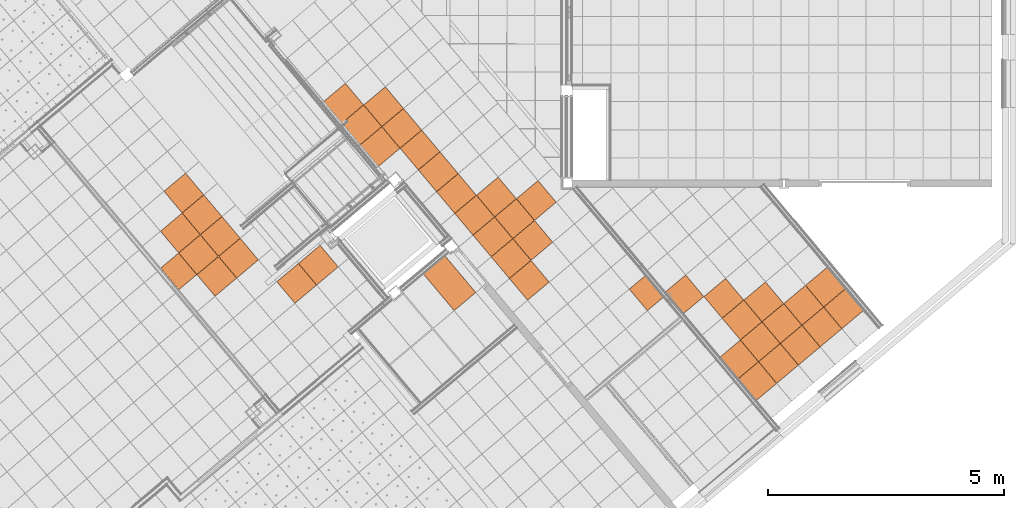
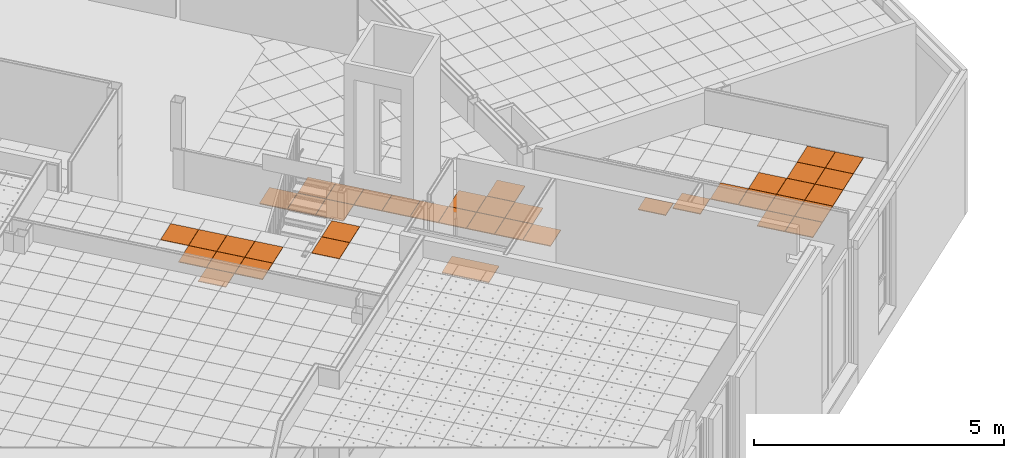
# One storey, part 195 of 338: 42 proxies, 4 elements without a shape of their own.
"""IFC2X3 building model written with IfcOpenShell, lengths in millimetres."""

from ifc_helpers import new_model, entity, si_unit, converted_unit, derived_unit, money_unit, direction, frame, origin_with_axes, place, context, subcontext, project, spatial, faceted_brep, source, transform, mapped, material, type_object, type_shapes, element, aggregate, save


model = new_model("IFC2X3")

# Units and contexts
model_context = context("Model", 3, precision=0.01, world=origin_with_axes(), true_north=direction((0.0, 1.0)))
plan_context = context("Plan", 3, precision=0.01, world=origin_with_axes(), true_north=direction((0.0, 1.0)))
body_context = subcontext(model_context, "Body", "Model", "MODEL_VIEW")
ifc_project = project(units=[si_unit("LENGTHUNIT", "METRE", prefix="MILLI"), si_unit("AREAUNIT", "SQUARE_METRE"), si_unit("VOLUMEUNIT", "CUBIC_METRE"), converted_unit("PLANEANGLEUNIT", "DEGREE", entity("IfcPlaneAngleMeasure", 0.0174532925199), si_unit("PLANEANGLEUNIT", "RADIAN"), dimensions=[0, 0, 0, 0, 0, 0, 0]), money_unit("EUR"), converted_unit("TIMEUNIT", "Year", entity("IfcTimeMeasure", 31556926.0), si_unit("TIMEUNIT", "SECOND"), dimensions=[0, 0, 1, 0, 0, 0, 0]), si_unit("MASSUNIT", "GRAM", prefix="KILO"), si_unit("THERMODYNAMICTEMPERATUREUNIT", "DEGREE_CELSIUS"), si_unit("LUMINOUSINTENSITYUNIT", "LUMEN"), si_unit("ENERGYUNIT", "JOULE", prefix="MEGA"), derived_unit("THERMALCONDUCTANCEUNIT", [(si_unit("POWERUNIT", "WATT"), 1), (si_unit("LENGTHUNIT", "METRE"), -1), (si_unit("THERMODYNAMICTEMPERATUREUNIT", "KELVIN"), -1)]), derived_unit("SPECIFICHEATCAPACITYUNIT", [(si_unit("ENERGYUNIT", "JOULE"), 1), (si_unit("MASSUNIT", "GRAM", prefix="KILO"), -1), (si_unit("THERMODYNAMICTEMPERATUREUNIT", "KELVIN"), -1)]), derived_unit("MASSDENSITYUNIT", [(si_unit("MASSUNIT", "GRAM", prefix="KILO"), 1), (si_unit("VOLUMEUNIT", "CUBIC_METRE"), -1)])], contexts=[model_context, plan_context])

# Site, building, storey
site_placement = place(None, origin_with_axes())
site = spatial("IfcSite", under=ifc_project, at=site_placement, Name="Fortuinstraat Woensdrecht", CompositionType="ELEMENT")
building_placement = place(site_placement, origin_with_axes())
building = spatial("IfcBuilding", under=site, at=building_placement, Name="IKC Fortuna", CompositionType="ELEMENT")
storey_placement = place(building_placement, origin_with_axes())
storey = spatial("IfcBuildingStorey", under=building, at=storey_placement, Name="00 begane grond", CompositionType="ELEMENT", Elevation=0.0)

# Covering, proxies
covering_type = type_object("IfcCoveringType", Name="Curtain Wall Type", PredefinedType="CEILING")
covering_1_placement = place(storey_placement, frame((19821.8074512, -1204.73183435, 4460.0), z_axis=(0.0, 0.0, 1.0), x_axis=(1.0, 0.0, 0.0)))
covering_1 = element("IfcCovering", 1, at=covering_1_placement, inside=storey, type_object=covering_type, Name="45_Plafondafwerking_P04", PredefinedType="CEILING")
ifc_material = material(Name="Gipsplaat")
building_element_proxy_type_1 = type_object("IfcBuildingElementProxyType", Name="Distinct Panel 600 x 600 x 20", PredefinedType="NOTDEFINED")
shared_shape_1 = source(origin_with_axes(), body_context, "Body", "Brep", [
    faceted_brep([(-597.499994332, 2.50000201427, -10.0), (-597.499994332, 2.50000201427, 10.0), (-597.499997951, 597.499994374, 10.0), (-597.499997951, 597.499994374, -10.0), (-2.50001005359, 2.49999600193, -10.0), (-2.50001005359, 2.49999600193, 10.0), (-2.49999596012, 597.499989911, 10.0), (-2.49999596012, 597.499989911, -10.0)], [[[0, 1, 2, 3]], [[4, 5, 1, 0]], [[1, 5, 6, 2]], [[3, 2, 6, 7]], [[0, 3, 7, 4]], [[7, 6, 5, 4]]]),
])
proxy_1_placement = place(covering_1_placement, frame((-1928.36318068, 2298.13303432, 0.0), z_axis=(0.0, 0.0, 1.0), x_axis=(1.0, 0.0, 0.0)))
proxy_1 = element("IfcBuildingElementProxy", 2, at=proxy_1_placement, type_object=building_element_proxy_type_1, material=ifc_material, Name="__Panel-D", context=body_context, shape_type="MappedRepresentation", body=[
    mapped(shared_shape_1, transform((-422.649621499, 36.9769853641, 0.0), x_axis=(-0.766044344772, -0.642787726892, 0.0), y_axis=(0.642787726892, -0.766044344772, 0.0), z_axis=(0.0, 0.0, 1.0))),
])
proxy_2_placement = place(covering_1_placement, frame((-2314.03581681, 2757.75964118, 0.0), z_axis=(0.0, 0.0, 1.0), x_axis=(1.0, 0.0, 0.0)))
proxy_2 = element("IfcBuildingElementProxy", 3, at=proxy_2_placement, type_object=building_element_proxy_type_1, material=ifc_material, Name="__Panel-D", context=body_context, shape_type="MappedRepresentation", body=[
    mapped(shared_shape_1, transform((-422.649621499, 36.9769853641, 0.0), x_axis=(-0.766044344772, -0.642787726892, 0.0), y_axis=(0.642787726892, -0.766044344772, 0.0), z_axis=(0.0, 0.0, 1.0))),
])
proxy_3_placement = place(covering_1_placement, frame((73.9539707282, 845.299242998, 0.0), z_axis=(0.0, 0.0, 1.0), x_axis=(1.0, 0.0, 0.0)))
proxy_3 = element("IfcBuildingElementProxy", 4, at=proxy_3_placement, type_object=building_element_proxy_type_1, material=ifc_material, Name="__Panel-D", context=body_context, shape_type="MappedRepresentation", body=[
    mapped(shared_shape_1, transform((-422.649621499, 36.9769853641, 0.0), x_axis=(-0.766044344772, -0.642787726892, 0.0), y_axis=(0.642787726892, -0.766044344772, 0.0), z_axis=(0.0, 0.0, 1.0))),
])

covering_2_placement = place(storey_placement, frame((30245.4600673, -364.084118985, 2810.0), z_axis=(0.0, 0.0, 1.0), x_axis=(1.0, 0.0, 0.0)))
covering_2 = element("IfcCovering", 5, at=covering_2_placement, inside=storey, type_object=covering_type, Name="45_Plafondafwerking_P02", PredefinedType="CEILING")
shared_shape_2 = source(origin_with_axes(), body_context, "Body", "Brep", [
    faceted_brep([(597.499991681, 597.50000021, -10.0), (2.49999975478, 597.499991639, -10.0), (2.49999975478, 597.499991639, 10.0), (597.499991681, 597.50000021, 10.0), (597.499992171, 2.49999865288, -10.0), (2.4999986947, 2.50000779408, -10.0), (2.4999986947, 2.50000779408, 10.0), (597.499992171, 2.49999865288, 10.0)], [[[0, 1, 2, 3]], [[0, 4, 5, 1]], [[1, 5, 6, 2]], [[3, 2, 6, 7]], [[4, 0, 3, 7]], [[5, 4, 7, 6]]]),
])
proxy_4_placement = place(covering_2_placement, frame((-919.254142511, -771.344165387, 0.0), z_axis=(0.0, 0.0, 1.0), x_axis=(1.0, 0.0, 0.0)))
proxy_4 = element("IfcBuildingElementProxy", 6, at=proxy_4_placement, type_object=building_element_proxy_type_1, material=ifc_material, Name="__Panel-D", context=body_context, shape_type="MappedRepresentation", body=[
    mapped(shared_shape_2, transform((-36.9774942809, -422.649576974, 0.0), x_axis=(0.766045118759, 0.642786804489, 0.0), y_axis=(-0.642786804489, 0.766045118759, 0.0), z_axis=(0.0, 0.0, 1.0))),
])
proxy_5_placement = place(covering_2_placement, frame((-533.582059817, -1230.97123664, 0.0), z_axis=(0.0, 0.0, 1.0), x_axis=(1.0, 0.0, 0.0)))
proxy_5 = element("IfcBuildingElementProxy", 7, at=proxy_5_placement, type_object=building_element_proxy_type_1, material=ifc_material, Name="__Panel-D", context=body_context, shape_type="MappedRepresentation", body=[
    mapped(shared_shape_2, transform((-36.9774942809, -422.649576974, 0.0), x_axis=(0.766045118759, 0.642786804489, 0.0), y_axis=(-0.642786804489, 0.766045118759, 0.0), z_axis=(0.0, 0.0, 1.0))),
])

# Covering, proxy
covering_3_placement = place(storey_placement, frame((26804.4884552, -1724.43837499, 3010.0), z_axis=(0.0, 0.0, 1.0), x_axis=(1.0, 0.0, 0.0)))
covering_3 = element("IfcCovering", 8, at=covering_3_placement, inside=storey, type_object=covering_type, Name="45_Plafondafwerking_P04", PredefinedType="CEILING")
proxy_6_placement = place(covering_3_placement, frame((-1982.6524095, 1429.39939975, 0.0), z_axis=(0.0, 0.0, 1.0), x_axis=(1.0, 0.0, 0.0)))
proxy_6 = element("IfcBuildingElementProxy", 9, at=proxy_6_placement, type_object=building_element_proxy_type_1, material=ifc_material, Name="__Panel-D", context=body_context, shape_type="MappedRepresentation", body=[
    mapped(shared_shape_2, transform((-36.9771146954, -422.649610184, 0.0), x_axis=(0.766044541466, 0.642787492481, 0.0), y_axis=(-0.642787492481, 0.766044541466, 0.0), z_axis=(0.0, 0.0, 1.0))),
])

# Proxy
building_element_proxy_type_2 = type_object("IfcBuildingElementProxyType", Name="Distinct Panel 560 x 600 x 20", PredefinedType="NOTDEFINED")
shared_shape_3 = source(origin_with_axes(), body_context, "Body", "Brep", [
    faceted_brep([(597.499997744, 597.500000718, -10.0), (42.1235042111, 597.499997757, -10.0), (42.1235042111, 597.499997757, 10.0), (597.499997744, 597.500000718, 10.0), (597.500009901, 2.49999101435, -10.0), (42.1241736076, 2.49999362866, -10.0), (42.1241736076, 2.49999362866, 10.0), (597.500009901, 2.49999101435, 10.0)], [[[0, 1, 2, 3]], [[0, 4, 5, 1]], [[1, 5, 6, 2]], [[3, 2, 6, 7]], [[4, 0, 3, 7]], [[5, 4, 7, 6]]]),
])
proxy_7_placement = place(covering_2_placement, frame((-2135.04831833, -225.027066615, 0.0), z_axis=(0.0, 0.0, 1.0), x_axis=(1.0, 0.0, 0.0)))
proxy_7 = element("IfcBuildingElementProxy", 10, at=proxy_7_placement, type_object=building_element_proxy_type_2, material=ifc_material, Name="__Panel-D", context=body_context, shape_type="MappedRepresentation", body=[
    mapped(shared_shape_3, transform((-52.1545551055, -435.38461593, 0.0), x_axis=(0.766045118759, 0.642786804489, 0.0), y_axis=(-0.642786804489, 0.766045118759, 0.0), z_axis=(0.0, 0.0, 1.0))),
])

shared_shape_4 = source(origin_with_axes(), body_context, "Body", "Brep", [
    faceted_brep([(597.49999164, 597.500000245, -10.0), (2.50000779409, 597.500001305, -10.0), (2.50000779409, 597.500001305, 10.0), (597.49999164, 597.500000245, 10.0), (597.50000021, 2.50000831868, -10.0), (2.49999865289, 2.50000782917, -10.0), (2.49999865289, 2.50000782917, 10.0), (597.50000021, 2.50000831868, 10.0)], [[[0, 1, 2, 3]], [[0, 4, 5, 1]], [[1, 5, 6, 2]], [[3, 2, 6, 7]], [[4, 0, 3, 7]], [[5, 4, 7, 6]]]),
])
proxy_8_placement = place(covering_2_placement, frame((771.344165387, -919.254142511, 0.0), z_axis=(0.0, 0.0, 1.0), x_axis=(1.0, 0.0, 0.0)))
proxy_8 = element("IfcBuildingElementProxy", 11, at=proxy_8_placement, type_object=building_element_proxy_type_1, material=ifc_material, Name="__Panel-D", context=body_context, shape_type="MappedRepresentation", body=[
    mapped(shared_shape_4, transform((-36.9774942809, -422.649576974, 0.0), x_axis=(0.766045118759, 0.642786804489, 0.0), y_axis=(-0.642786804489, 0.766045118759, 0.0), z_axis=(0.0, 0.0, 1.0))),
])

proxy_9_placement = place(covering_2_placement, frame((-73.9549885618, -845.299153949, 0.0), z_axis=(0.0, 0.0, 1.0), x_axis=(1.0, 0.0, 0.0)))
proxy_9 = element("IfcBuildingElementProxy", 12, at=proxy_9_placement, type_object=building_element_proxy_type_1, material=ifc_material, Name="__Panel-D", context=body_context, shape_type="MappedRepresentation", body=[
    mapped(shared_shape_4, transform((-36.9774942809, -422.649576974, 0.0), x_axis=(0.766045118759, 0.642786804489, 0.0), y_axis=(-0.642786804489, 0.766045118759, 0.0), z_axis=(0.0, 0.0, 1.0))),
])

proxy_10_placement = place(covering_2_placement, frame((385.672082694, -459.627071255, 0.0), z_axis=(0.0, 0.0, 1.0), x_axis=(1.0, 0.0, 0.0)))
proxy_10 = element("IfcBuildingElementProxy", 13, at=proxy_10_placement, type_object=building_element_proxy_type_1, material=ifc_material, Name="__Panel-D", context=body_context, shape_type="MappedRepresentation", body=[
    mapped(shared_shape_4, transform((-36.9774942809, -422.649576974, 0.0), x_axis=(0.766045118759, 0.642786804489, 0.0), y_axis=(-0.642786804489, 0.766045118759, 0.0), z_axis=(0.0, 0.0, 1.0))),
])

proxy_11_placement = place(covering_2_placement, frame((-147.909977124, -1690.5983079, 0.0), z_axis=(0.0, 0.0, 1.0), x_axis=(1.0, 0.0, 0.0)))
proxy_11 = element("IfcBuildingElementProxy", 14, at=proxy_11_placement, type_object=building_element_proxy_type_1, material=ifc_material, Name="__Panel-D", context=body_context, shape_type="MappedRepresentation", body=[
    mapped(shared_shape_4, transform((-36.9774942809, -422.649576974, 0.0), x_axis=(0.766045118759, 0.642786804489, 0.0), y_axis=(-0.642786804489, 0.766045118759, 0.0), z_axis=(0.0, 0.0, 1.0))),
])

proxy_12_placement = place(covering_2_placement, frame((-459.627071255, -385.672082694, 0.0), z_axis=(0.0, 0.0, 1.0), x_axis=(1.0, 0.0, 0.0)))
proxy_12 = element("IfcBuildingElementProxy", 15, at=proxy_12_placement, type_object=building_element_proxy_type_1, material=ifc_material, Name="__Panel-D", context=body_context, shape_type="MappedRepresentation", body=[
    mapped(shared_shape_4, transform((-36.9774942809, -422.649576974, 0.0), x_axis=(0.766045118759, 0.642786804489, 0.0), y_axis=(-0.642786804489, 0.766045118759, 0.0), z_axis=(0.0, 0.0, 1.0))),
])

proxy_13_placement = place(covering_2_placement, frame((311.717094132, -1304.9262252, 0.0), z_axis=(0.0, 0.0, 1.0), x_axis=(1.0, 0.0, 0.0)))
proxy_13 = element("IfcBuildingElementProxy", 16, at=proxy_13_placement, type_object=building_element_proxy_type_1, material=ifc_material, Name="__Panel-D", context=body_context, shape_type="MappedRepresentation", body=[
    mapped(shared_shape_4, transform((-36.9774942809, -422.649576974, 0.0), x_axis=(0.766045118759, 0.642786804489, 0.0), y_axis=(-0.642786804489, 0.766045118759, 0.0), z_axis=(0.0, 0.0, 1.0))),
])

proxy_14_placement = place(covering_2_placement, frame((-1304.9262252, -311.717094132, 0.0), z_axis=(0.0, 0.0, 1.0), x_axis=(1.0, 0.0, 0.0)))
proxy_14 = element("IfcBuildingElementProxy", 17, at=proxy_14_placement, type_object=building_element_proxy_type_1, material=ifc_material, Name="__Panel-D", context=body_context, shape_type="MappedRepresentation", body=[
    mapped(shared_shape_4, transform((-36.9774942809, -422.649576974, 0.0), x_axis=(0.766045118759, 0.642786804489, 0.0), y_axis=(-0.642786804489, 0.766045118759, 0.0), z_axis=(0.0, 0.0, 1.0))),
])

proxy_15_placement = place(covering_3_placement, frame((-2368.32490499, 1889.02612463, 0.0), z_axis=(0.0, 0.0, 1.0), x_axis=(1.0, 0.0, 0.0)))
proxy_15 = element("IfcBuildingElementProxy", 18, at=proxy_15_placement, type_object=building_element_proxy_type_1, material=ifc_material, Name="__Panel-D", context=body_context, shape_type="MappedRepresentation", body=[
    mapped(shared_shape_4, transform((-36.9771146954, -422.649610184, 0.0), x_axis=(0.766044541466, 0.642787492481, 0.0), y_axis=(-0.642787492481, 0.766044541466, 0.0), z_axis=(0.0, 0.0, 1.0))),
])

proxy_16_placement = place(covering_3_placement, frame((-2753.99740047, 2348.65284951, 0.0), z_axis=(0.0, 0.0, 1.0), x_axis=(1.0, 0.0, 0.0)))
proxy_16 = element("IfcBuildingElementProxy", 19, at=proxy_16_placement, type_object=building_element_proxy_type_1, material=ifc_material, Name="__Panel-D", context=body_context, shape_type="MappedRepresentation", body=[
    mapped(shared_shape_4, transform((-36.9771146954, -422.649610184, 0.0), x_axis=(0.766044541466, 0.642787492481, 0.0), y_axis=(-0.642787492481, 0.766044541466, 0.0), z_axis=(0.0, 0.0, 1.0))),
])

proxy_17_placement = place(covering_3_placement, frame((-3139.66989596, 2808.27957439, 0.0), z_axis=(0.0, 0.0, 1.0), x_axis=(1.0, 0.0, 0.0)))
proxy_17 = element("IfcBuildingElementProxy", 20, at=proxy_17_placement, type_object=building_element_proxy_type_1, material=ifc_material, Name="__Panel-D", context=body_context, shape_type="MappedRepresentation", body=[
    mapped(shared_shape_4, transform((-36.9771146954, -422.649610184, 0.0), x_axis=(0.766044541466, 0.642787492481, 0.0), y_axis=(-0.642787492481, 0.766044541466, 0.0), z_axis=(0.0, 0.0, 1.0))),
])

proxy_18_placement = place(covering_3_placement, frame((-3525.34239145, 3267.90629927, 0.0), z_axis=(0.0, 0.0, 1.0), x_axis=(1.0, 0.0, 0.0)))
proxy_18 = element("IfcBuildingElementProxy", 21, at=proxy_18_placement, type_object=building_element_proxy_type_1, material=ifc_material, Name="__Panel-D", context=body_context, shape_type="MappedRepresentation", body=[
    mapped(shared_shape_4, transform((-36.9771146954, -422.649610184, 0.0), x_axis=(0.766044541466, 0.642787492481, 0.0), y_axis=(-0.642787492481, 0.766044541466, 0.0), z_axis=(0.0, 0.0, 1.0))),
])

proxy_19_placement = place(covering_3_placement, frame((-3911.01488694, 3727.53302415, 0.0), z_axis=(0.0, 0.0, 1.0), x_axis=(1.0, 0.0, 0.0)))
proxy_19 = element("IfcBuildingElementProxy", 22, at=proxy_19_placement, type_object=building_element_proxy_type_1, material=ifc_material, Name="__Panel-D", context=body_context, shape_type="MappedRepresentation", body=[
    mapped(shared_shape_4, transform((-36.9771146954, -422.649610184, 0.0), x_axis=(0.766044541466, 0.642787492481, 0.0), y_axis=(-0.642787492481, 0.766044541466, 0.0), z_axis=(0.0, 0.0, 1.0))),
])

proxy_20_placement = place(covering_3_placement, frame((-4296.68738243, 4187.15974903, 0.0), z_axis=(0.0, 0.0, 1.0), x_axis=(1.0, 0.0, 0.0)))
proxy_20 = element("IfcBuildingElementProxy", 23, at=proxy_20_placement, type_object=building_element_proxy_type_1, material=ifc_material, Name="__Panel-D", context=body_context, shape_type="MappedRepresentation", body=[
    mapped(shared_shape_4, transform((-36.9771146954, -422.649610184, 0.0), x_axis=(0.766044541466, 0.642787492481, 0.0), y_axis=(-0.642787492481, 0.766044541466, 0.0), z_axis=(0.0, 0.0, 1.0))),
])

proxy_21_placement = place(covering_3_placement, frame((-4682.35987792, 4646.78647391, 0.0), z_axis=(0.0, 0.0, 1.0), x_axis=(1.0, 0.0, 0.0)))
proxy_21 = element("IfcBuildingElementProxy", 24, at=proxy_21_placement, type_object=building_element_proxy_type_1, material=ifc_material, Name="__Panel-D", context=body_context, shape_type="MappedRepresentation", body=[
    mapped(shared_shape_4, transform((-36.9771146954, -422.649610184, 0.0), x_axis=(0.766044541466, 0.642787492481, 0.0), y_axis=(-0.642787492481, 0.766044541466, 0.0), z_axis=(0.0, 0.0, 1.0))),
])

proxy_22_placement = place(covering_3_placement, frame((-5068.03237341, 5106.41319879, 0.0), z_axis=(0.0, 0.0, 1.0), x_axis=(1.0, 0.0, 0.0)))
proxy_22 = element("IfcBuildingElementProxy", 25, at=proxy_22_placement, type_object=building_element_proxy_type_1, material=ifc_material, Name="__Panel-D", context=body_context, shape_type="MappedRepresentation", body=[
    mapped(shared_shape_4, transform((-36.9771146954, -422.649610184, 0.0), x_axis=(0.766044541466, 0.642787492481, 0.0), y_axis=(-0.642787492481, 0.766044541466, 0.0), z_axis=(0.0, 0.0, 1.0))),
])

proxy_23_placement = place(covering_3_placement, frame((-1908.69818011, 2274.69862012, 0.0), z_axis=(0.0, 0.0, 1.0), x_axis=(1.0, 0.0, 0.0)))
proxy_23 = element("IfcBuildingElementProxy", 26, at=proxy_23_placement, type_object=building_element_proxy_type_1, material=ifc_material, Name="__Panel-D", context=body_context, shape_type="MappedRepresentation", body=[
    mapped(shared_shape_4, transform((-36.9771146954, -422.649610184, 0.0), x_axis=(0.766044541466, 0.642787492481, 0.0), y_axis=(-0.642787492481, 0.766044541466, 0.0), z_axis=(0.0, 0.0, 1.0))),
])

proxy_24_placement = place(covering_3_placement, frame((-2294.37067559, 2734.325345, 0.0), z_axis=(0.0, 0.0, 1.0), x_axis=(1.0, 0.0, 0.0)))
proxy_24 = element("IfcBuildingElementProxy", 27, at=proxy_24_placement, type_object=building_element_proxy_type_1, material=ifc_material, Name="__Panel-D", context=body_context, shape_type="MappedRepresentation", body=[
    mapped(shared_shape_4, transform((-36.9771146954, -422.649610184, 0.0), x_axis=(0.766044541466, 0.642787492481, 0.0), y_axis=(-0.642787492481, 0.766044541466, 0.0), z_axis=(0.0, 0.0, 1.0))),
])

proxy_25_placement = place(covering_3_placement, frame((-2680.04317108, 3193.95206988, 0.0), z_axis=(0.0, 0.0, 1.0), x_axis=(1.0, 0.0, 0.0)))
proxy_25 = element("IfcBuildingElementProxy", 28, at=proxy_25_placement, type_object=building_element_proxy_type_1, material=ifc_material, Name="__Panel-D", context=body_context, shape_type="MappedRepresentation", body=[
    mapped(shared_shape_4, transform((-36.9771146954, -422.649610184, 0.0), x_axis=(0.766044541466, 0.642787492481, 0.0), y_axis=(-0.642787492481, 0.766044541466, 0.0), z_axis=(0.0, 0.0, 1.0))),
])

proxy_26_placement = place(covering_3_placement, frame((-1834.74395071, 3119.99784049, 0.0), z_axis=(0.0, 0.0, 1.0), x_axis=(1.0, 0.0, 0.0)))
proxy_26 = element("IfcBuildingElementProxy", 29, at=proxy_26_placement, type_object=building_element_proxy_type_1, material=ifc_material, Name="__Panel-D", context=body_context, shape_type="MappedRepresentation", body=[
    mapped(shared_shape_4, transform((-36.9771146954, -422.649610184, 0.0), x_axis=(0.766044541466, 0.642787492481, 0.0), y_axis=(-0.642787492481, 0.766044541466, 0.0), z_axis=(0.0, 0.0, 1.0))),
])

shared_shape_5 = source(origin_with_axes(), body_context, "Body", "Brep", [
    faceted_brep([(597.500001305, 597.499992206, -10.0), (2.50000782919, 597.500001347, -10.0), (2.50000782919, 597.500001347, 10.0), (597.500001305, 597.499992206, 10.0), (597.500000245, 2.5000083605, -10.0), (2.50000831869, 2.49999978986, -10.0), (2.50000831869, 2.49999978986, 10.0), (597.500000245, 2.5000083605, 10.0)], [[[0, 1, 2, 3]], [[0, 4, 5, 1]], [[1, 5, 6, 2]], [[3, 2, 6, 7]], [[4, 0, 3, 7]], [[5, 4, 7, 6]]]),
])
proxy_27_placement = place(covering_2_placement, frame((845.299153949, -73.9549885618, 0.0), z_axis=(0.0, 0.0, 1.0), x_axis=(1.0, 0.0, 0.0)))
proxy_27 = element("IfcBuildingElementProxy", 30, at=proxy_27_placement, type_object=building_element_proxy_type_1, material=ifc_material, Name="__Panel-D", context=body_context, shape_type="MappedRepresentation", body=[
    mapped(shared_shape_5, transform((-36.9774942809, -422.649576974, 0.0), x_axis=(0.766045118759, 0.642786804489, 0.0), y_axis=(-0.642786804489, 0.766045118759, 0.0), z_axis=(0.0, 0.0, 1.0))),
])

proxy_28_placement = place(covering_3_placement, frame((-5527.65909829, 4720.7407033, 0.0), z_axis=(0.0, 0.0, 1.0), x_axis=(1.0, 0.0, 0.0)))
proxy_28 = element("IfcBuildingElementProxy", 31, at=proxy_28_placement, type_object=building_element_proxy_type_1, material=ifc_material, Name="__Panel-D", context=body_context, shape_type="MappedRepresentation", body=[
    mapped(shared_shape_5, transform((-36.9771146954, -422.649610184, 0.0), x_axis=(0.766044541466, 0.642787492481, 0.0), y_axis=(-0.642787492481, 0.766044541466, 0.0), z_axis=(0.0, 0.0, 1.0))),
])

shared_shape_6 = source(origin_with_axes(), body_context, "Body", "Brep", [
    faceted_brep([(597.50000074, 597.499999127, -10.0), (42.1266496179, 597.500004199, -10.0), (42.1266496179, 597.500004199, 10.0), (597.50000074, 597.499999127, 10.0), (597.500001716, 2.50000117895, -10.0), (42.1273078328, 2.50001182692, -10.0), (42.1273078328, 2.50001182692, 10.0), (597.500001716, 2.50000117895, 10.0)], [[[0, 1, 2, 3]], [[0, 4, 5, 1]], [[1, 5, 6, 2]], [[3, 2, 6, 7]], [[4, 0, 3, 7]], [[5, 4, 7, 6]]]),
])
type_shapes(building_element_proxy_type_2, [shared_shape_3, shared_shape_6])
proxy_29_placement = place(covering_2_placement, frame((-592.359020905, -2063.53454052, 0.0), z_axis=(0.0, 0.0, 1.0), x_axis=(1.0, 0.0, 0.0)))
proxy_29 = element("IfcBuildingElementProxy", 32, at=proxy_29_placement, type_object=building_element_proxy_type_2, material=ifc_material, Name="__Panel-D", context=body_context, shape_type="MappedRepresentation", body=[
    mapped(shared_shape_6, transform((-52.155521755, -435.385427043, 0.0), x_axis=(0.766045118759, 0.642786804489, 0.0), y_axis=(-0.642786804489, 0.766045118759, 0.0), z_axis=(0.0, 0.0, 1.0))),
])

proxy_30_placement = place(covering_2_placement, frame((-978.03134113, -1603.90766858, 0.0), z_axis=(0.0, 0.0, 1.0), x_axis=(1.0, 0.0, 0.0)))
proxy_30 = element("IfcBuildingElementProxy", 33, at=proxy_30_placement, type_object=building_element_proxy_type_2, material=ifc_material, Name="__Panel-D", context=body_context, shape_type="MappedRepresentation", body=[
    mapped(shared_shape_6, transform((-52.1552842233, -435.385227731, 0.0), x_axis=(0.766045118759, 0.642786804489, 0.0), y_axis=(-0.642786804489, 0.766045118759, 0.0), z_axis=(0.0, 0.0, 1.0))),
])

shared_shape_7 = source(origin_with_axes(), body_context, "Body", "Brep", [
    faceted_brep([(597.49999164, 597.500000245, -10.0), (2.50000779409, 597.500001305, -10.0), (2.50000779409, 597.500001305, 10.0), (597.49999164, 597.500000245, 10.0), (597.50000021, 2.50000831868, -10.0), (2.49999865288, 2.50000782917, -10.0), (2.49999865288, 2.50000782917, 10.0), (597.50000021, 2.50000831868, 10.0)], [[[0, 1, 2, 3]], [[0, 4, 5, 1]], [[1, 5, 6, 2]], [[3, 2, 6, 7]], [[4, 0, 3, 7]], [[5, 4, 7, 6]]]),
])
proxy_31_placement = place(covering_2_placement, frame((1230.97123664, -533.582059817, 0.0), z_axis=(0.0, 0.0, 1.0), x_axis=(1.0, 0.0, 0.0)))
proxy_31 = element("IfcBuildingElementProxy", 34, at=proxy_31_placement, type_object=building_element_proxy_type_1, material=ifc_material, Name="__Panel-D", context=body_context, shape_type="MappedRepresentation", body=[
    mapped(shared_shape_7, transform((-36.9774942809, -422.649576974, 0.0), x_axis=(0.766045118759, 0.642786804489, 0.0), y_axis=(-0.642786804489, 0.766045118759, 0.0), z_axis=(0.0, 0.0, 1.0))),
])

aggregate(covering_2, [proxy_8, proxy_9, proxy_27, proxy_10, proxy_29, proxy_11, proxy_12, proxy_13, proxy_4, proxy_5, proxy_14, proxy_31, proxy_7, proxy_30])

proxy_32_placement = place(covering_3_placement, frame((-5141.9866028, 4261.11397842, 0.0), z_axis=(0.0, 0.0, 1.0), x_axis=(1.0, 0.0, 0.0)))
proxy_32 = element("IfcBuildingElementProxy", 35, at=proxy_32_placement, type_object=building_element_proxy_type_1, material=ifc_material, Name="__Panel-D", context=body_context, shape_type="MappedRepresentation", body=[
    mapped(shared_shape_7, transform((-36.9771146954, -422.649610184, 0.0), x_axis=(0.766044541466, 0.642787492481, 0.0), y_axis=(-0.642787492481, 0.766044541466, 0.0), z_axis=(0.0, 0.0, 1.0))),
])

proxy_33_placement = place(covering_3_placement, frame((-5913.33159377, 5180.36742818, 0.0), z_axis=(0.0, 0.0, 1.0), x_axis=(1.0, 0.0, 0.0)))
proxy_33 = element("IfcBuildingElementProxy", 36, at=proxy_33_placement, type_object=building_element_proxy_type_1, material=ifc_material, Name="__Panel-D", context=body_context, shape_type="MappedRepresentation", body=[
    mapped(shared_shape_7, transform((-36.9771146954, -422.649610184, 0.0), x_axis=(0.766044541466, 0.642787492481, 0.0), y_axis=(-0.642787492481, 0.766044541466, 0.0), z_axis=(0.0, 0.0, 1.0))),
])

building_element_proxy_type_3 = type_object("IfcBuildingElementProxyType", Name="Distinct Panel 450 x 600 x 20", PredefinedType="NOTDEFINED")
shared_shape_8 = source(origin_with_axes(), body_context, "Body", "Brep", [
    faceted_brep([(447.481195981, 597.500002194, -10.0), (2.49999687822, 597.49999827, -10.0), (2.49999687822, 597.49999827, 10.0), (447.481195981, 597.500002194, 10.0), (447.48120012, 2.50000603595, -10.0), (2.50000101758, 2.50000211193, -10.0), (2.50000101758, 2.50000211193, 10.0), (447.48120012, 2.50000603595, 10.0)], [[[0, 1, 2, 3]], [[0, 4, 5, 1]], [[1, 5, 6, 2]], [[3, 2, 6, 7]], [[4, 0, 3, 7]], [[5, 4, 7, 6]]]),
])
type_shapes(building_element_proxy_type_3, [shared_shape_8])
proxy_34_placement = place(covering_3_placement, frame((495.784708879, 1159.32160635, 0.0), z_axis=(0.0, 0.0, 1.0), x_axis=(1.0, 0.0, 0.0)))
proxy_34 = element("IfcBuildingElementProxy", 37, at=proxy_34_placement, type_object=building_element_proxy_type_3, material=ifc_material, Name="__Panel-D", context=body_context, shape_type="MappedRepresentation", body=[
    mapped(shared_shape_8, transform((20.4834280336, -374.434504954, 0.0), x_axis=(0.766044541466, 0.642787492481, 0.0), y_axis=(-0.642787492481, 0.766044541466, 0.0), z_axis=(0.0, 0.0, 1.0))),
])

aggregate(covering_3, [proxy_32, proxy_33, proxy_6, proxy_15, proxy_16, proxy_17, proxy_18, proxy_19, proxy_20, proxy_21, proxy_22, proxy_23, proxy_24, proxy_25, proxy_26, proxy_28, proxy_34])

shared_shape_9 = source(origin_with_axes(), body_context, "Body", "Brep", [
    faceted_brep([(-597.499994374, 2.50000204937, -10.0), (-597.499994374, 2.50000204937, 10.0), (-597.499989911, 597.50000404, 10.0), (-597.499989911, 597.50000404, -10.0), (-2.50000201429, 2.50000566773, -10.0), (-2.50000201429, 2.50000566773, 10.0), (-2.49999600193, 597.499989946, 10.0), (-2.49999600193, 597.499989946, -10.0)], [[[0, 1, 2, 3]], [[4, 5, 1, 0]], [[1, 5, 6, 2]], [[3, 2, 6, 7]], [[0, 3, 7, 4]], [[7, 6, 5, 4]]]),
])
proxy_35_placement = place(covering_1_placement, frame((533.580577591, 1230.97187913, 0.0), z_axis=(0.0, 0.0, 1.0), x_axis=(1.0, 0.0, 0.0)))
proxy_35 = element("IfcBuildingElementProxy", 38, at=proxy_35_placement, type_object=building_element_proxy_type_1, material=ifc_material, Name="__Panel-D", context=body_context, shape_type="MappedRepresentation", body=[
    mapped(shared_shape_9, transform((-422.649621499, 36.9769853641, 0.0), x_axis=(-0.766044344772, -0.642787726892, 0.0), y_axis=(0.642787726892, -0.766044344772, 0.0), z_axis=(0.0, 0.0, 1.0))),
])

# Covering, proxy
covering_4_placement = place(storey_placement, frame((21527.1932838, -1706.9023883, 2770.0), z_axis=(0.0, 0.0, 1.0), x_axis=(1.0, 0.0, 0.0)))
covering_4 = element("IfcCovering", 39, at=covering_4_placement, inside=storey, type_object=covering_type, Name="45_Plafondafwerking_P02a", PredefinedType="CEILING")
building_element_proxy_type_4 = type_object("IfcBuildingElementProxyType", Name="Distinct Panel 600 x 1012 x 20", PredefinedType="NOTDEFINED")
shared_shape_10 = source(origin_with_axes(), body_context, "Body", "Brep", [
    faceted_brep([(-597.499991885, 190.541254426, -10.0), (-597.499991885, 190.541254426, 10.0), (-597.500005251, 1197.49983566, 10.0), (-597.500005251, 1197.49983566, -10.0), (-2.49998992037, 190.541449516, -10.0), (-2.49998992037, 190.541449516, 10.0), (-2.49999947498, 1197.49984716, 10.0), (-2.49999947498, 1197.49984716, -10.0)], [[[0, 1, 2, 3]], [[4, 5, 1, 0]], [[1, 5, 6, 2]], [[3, 2, 6, 7]], [[0, 3, 7, 4]], [[7, 6, 5, 4]]]),
])
type_shapes(building_element_proxy_type_4, [shared_shape_10])
proxy_36_placement = place(covering_4_placement, frame((1607.88583164, 1349.17693711, 32.5714556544), z_axis=(0.0, 0.0, 1.0), x_axis=(0.642787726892, -0.766044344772, 0.0)))
proxy_36 = element("IfcBuildingElementProxy", 40, at=proxy_36_placement, type_object=building_element_proxy_type_4, material=ifc_material, Name="__Panel-D", context=body_context, shape_type="MappedRepresentation", body=[
    mapped(shared_shape_10, transform((-694.020599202, -299.964442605, -4.61878473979), x_axis=(0.0, -0.999881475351, -0.0153959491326), y_axis=(1.0, 0.0, 0.0), z_axis=(0.0, -0.0153959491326, 0.999881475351))),
])
aggregate(covering_4, [proxy_36])

# Proxy
shared_shape_11 = source(origin_with_axes(), body_context, "Body", "Brep", [
    faceted_brep([(-597.500003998, 2.50001005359, -10.0), (-597.500003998, 2.50001005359, 10.0), (-597.499997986, 597.499994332, 10.0), (-597.499997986, 597.499994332, -10.0), (-2.50001008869, 2.4999959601, -10.0), (-2.50001008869, 2.4999959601, 10.0), (-2.50000562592, 597.499997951, 10.0), (-2.50000562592, 597.499997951, -10.0)], [[[0, 1, 2, 3]], [[4, 5, 1, 0]], [[1, 5, 6, 2]], [[3, 2, 6, 7]], [[0, 3, 7, 4]], [[7, 6, 5, 4]]]),
])
proxy_37_placement = place(covering_1_placement, frame((-1542.69054454, 1838.50642745, 0.0), z_axis=(0.0, 0.0, 1.0), x_axis=(1.0, 0.0, 0.0)))
proxy_37 = element("IfcBuildingElementProxy", 41, at=proxy_37_placement, type_object=building_element_proxy_type_1, material=ifc_material, Name="__Panel-D", context=body_context, shape_type="MappedRepresentation", body=[
    mapped(shared_shape_11, transform((-422.649621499, 36.9769853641, 0.0), x_axis=(-0.766044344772, -0.642787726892, 0.0), y_axis=(0.642787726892, -0.766044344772, 0.0), z_axis=(0.0, 0.0, 1.0))),
])

proxy_38_placement = place(covering_1_placement, frame((-1616.64451527, 993.207184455, 0.0), z_axis=(0.0, 0.0, 1.0), x_axis=(1.0, 0.0, 0.0)))
proxy_38 = element("IfcBuildingElementProxy", 42, at=proxy_38_placement, type_object=building_element_proxy_type_1, material=ifc_material, Name="__Panel-D", context=body_context, shape_type="MappedRepresentation", body=[
    mapped(shared_shape_11, transform((-422.649621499, 36.9769853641, 0.0), x_axis=(-0.766044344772, -0.642787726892, 0.0), y_axis=(0.642787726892, -0.766044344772, 0.0), z_axis=(0.0, 0.0, 1.0))),
])

proxy_39_placement = place(covering_1_placement, frame((-2002.3171514, 1452.83379132, 0.0), z_axis=(0.0, 0.0, 1.0), x_axis=(1.0, 0.0, 0.0)))
proxy_39 = element("IfcBuildingElementProxy", 43, at=proxy_39_placement, type_object=building_element_proxy_type_1, material=ifc_material, Name="__Panel-D", context=body_context, shape_type="MappedRepresentation", body=[
    mapped(shared_shape_11, transform((-422.649621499, 36.9769853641, 0.0), x_axis=(-0.766044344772, -0.642787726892, 0.0), y_axis=(0.642787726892, -0.766044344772, 0.0), z_axis=(0.0, 0.0, 1.0))),
])

proxy_40_placement = place(covering_1_placement, frame((-2387.98978754, 1912.46039818, 0.0), z_axis=(0.0, 0.0, 1.0), x_axis=(1.0, 0.0, 0.0)))
proxy_40 = element("IfcBuildingElementProxy", 44, at=proxy_40_placement, type_object=building_element_proxy_type_1, material=ifc_material, Name="__Panel-D", context=body_context, shape_type="MappedRepresentation", body=[
    mapped(shared_shape_11, transform((-422.649621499, 36.9769853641, 0.0), x_axis=(-0.766044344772, -0.642787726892, 0.0), y_axis=(0.642787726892, -0.766044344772, 0.0), z_axis=(0.0, 0.0, 1.0))),
])

shared_shape_12 = source(origin_with_axes(), body_context, "Body", "Brep", [
    faceted_brep([(-597.499994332, 2.50000201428, -10.0), (-597.499994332, 2.50000201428, 10.0), (-597.499997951, 597.499994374, 10.0), (-597.499997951, 597.499994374, -10.0), (-2.5000100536, 2.49999600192, -10.0), (-2.5000100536, 2.49999600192, 10.0), (-2.49999596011, 597.499989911, 10.0), (-2.49999596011, 597.499989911, -10.0)], [[[0, 1, 2, 3]], [[4, 5, 1, 0]], [[1, 5, 6, 2]], [[3, 2, 6, 7]], [[0, 3, 7, 4]], [[7, 6, 5, 4]]]),
])
type_shapes(building_element_proxy_type_1, [shared_shape_1, shared_shape_2, shared_shape_4, shared_shape_5, shared_shape_7, shared_shape_9, shared_shape_11, shared_shape_12])
proxy_41_placement = place(covering_1_placement, frame((-1157.01790841, 1378.87982059, 0.0), z_axis=(0.0, 0.0, 1.0), x_axis=(1.0, 0.0, 0.0)))
proxy_41 = element("IfcBuildingElementProxy", 45, at=proxy_41_placement, type_object=building_element_proxy_type_1, material=ifc_material, Name="__Panel-D", context=body_context, shape_type="MappedRepresentation", body=[
    mapped(shared_shape_12, transform((-422.649621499, 36.9769853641, 0.0), x_axis=(-0.766044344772, -0.642787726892, 0.0), y_axis=(0.642787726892, -0.766044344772, 0.0), z_axis=(0.0, 0.0, 1.0))),
])

building_element_proxy_type_5 = type_object("IfcBuildingElementProxyType", Name="Distinct Panel 500 x 600 x 20", PredefinedType="NOTDEFINED")
shared_shape_13 = source(origin_with_axes(), body_context, "Body", "Brep", [
    faceted_brep([(-597.499996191, 2.4999898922, -10.0), (-597.499996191, 2.4999898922, 10.0), (-597.500006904, 597.500000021, 10.0), (-597.500006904, 597.500000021, -10.0), (-102.501953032, 2.49998751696, -10.0), (-102.501953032, 2.49998751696, 10.0), (-102.501963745, 597.499997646, 10.0), (-102.501963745, 597.499997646, -10.0)], [[[0, 1, 2, 3]], [[4, 5, 1, 0]], [[1, 5, 6, 2]], [[3, 2, 6, 7]], [[0, 3, 7, 4]], [[7, 6, 5, 4]]]),
])
type_shapes(building_element_proxy_type_5, [shared_shape_13])
proxy_42_placement = place(covering_1_placement, frame((-2423.64079156, 1099.30117041, 0.0), z_axis=(0.0, 0.0, 1.0), x_axis=(1.0, 0.0, 0.0)))
proxy_42 = element("IfcBuildingElementProxy", 46, at=proxy_42_placement, type_object=building_element_proxy_type_5, material=ifc_material, Name="__Panel-D", context=body_context, shape_type="MappedRepresentation", body=[
    mapped(shared_shape_13, transform((-460.95258821, 4.83697013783, 0.0), x_axis=(-0.766044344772, -0.642787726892, 0.0), y_axis=(0.642787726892, -0.766044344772, 0.0), z_axis=(0.0, 0.0, 1.0))),
])

aggregate(covering_1, [proxy_1, proxy_2, proxy_35, proxy_3, proxy_37, proxy_41, proxy_38, proxy_39, proxy_40, proxy_42])

save(model, "model.ifc")
